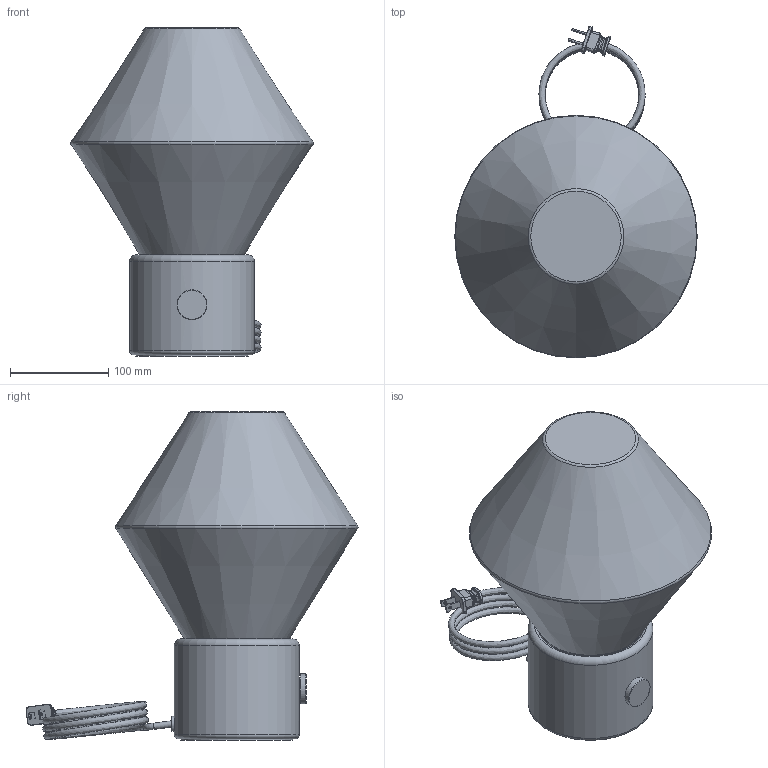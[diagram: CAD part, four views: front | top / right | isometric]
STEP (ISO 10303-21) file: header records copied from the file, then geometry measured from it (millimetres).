
FILE_DESCRIPTION(/* description */ (''),/* implementation_level */ '2;1');
FILE_NAME(/* name */ 'Trove - Ionic Table Lamp.step',/* time_stamp */ '2024-07-26T16:27:03-04:00',/* author */ (''),/* organization */ (''),/* preprocessor_version */ 'ST-DEVELOPER v20',/* originating_system */ 'Autodesk Translation Framework v13.14.0.145',/* authorisation */ '');
FILE_SCHEMA (('AUTOMOTIVE_DESIGN { 1 0 10303 214 3 1 1 }'));
Length unit declared in the file: inch
Products named in the file (20): Marble Base - Ionic Table Lamp - 120V; Coiled - SVT (Blk Fabric); Brass Dial - Dimmer Knob; µ÷¹âÆ÷; 90701000093 ¹â°åE27µÆ×ù_¦Õ375
9mm_ºÚÉ«_CEÈÏÖ¤; 90701000096 M10ÑÀ¹Ü_M10L25mmÄÚ¿×¦
Õ7_²ÄÖÊ£ºÌú_¶Æ°×Ð
¿_RoHS; 90701000098 Ñ¹Ïß°å_PP_314612_º
ÚÉ«; 90701000097 M10Áù½Ç±¡ÂÝÄ¸_M10
_²ÄÖÊ£ºÌú_¶Æ°×Ð¿
_RoHS; M10ÄÚ¾â³ÝËø½ôµæÈ¦
_²ÄÖÊ£ºÌú_¶Æ°×Ð¿
_RoHS; Marble Base; Plastic Insert; Silicone Gasket; T9 - Bulb; T9 - LED Bulb; T9; E26 Base; Rubber Grommet; 2-Pole Plug End; Neoprene Pad; Trove - TL
Assembly tree (19 placements, depth 4):
  Marble Base - Ionic Table Lamp - 120V
    Coiled - SVT (Blk Fabric)
    Brass Dial - Dimmer Knob
    µ÷¹âÆ÷
    90701000093 ¹â°åE27µÆ×ù_¦Õ375
9mm_ºÚÉ«_CEÈÏÖ¤
    90701000096 M10ÑÀ¹Ü_M10L25mmÄÚ¿×¦
Õ7_²ÄÖÊ£ºÌú_¶Æ°×Ð
¿_RoHS
    90701000098 Ñ¹Ïß°å_PP_314612_º
ÚÉ«
    90701000097 M10Áù½Ç±¡ÂÝÄ¸_M10
_²ÄÖÊ£ºÌú_¶Æ°×Ð¿
_RoHS
    M10ÄÚ¾â³ÝËø½ôµæÈ¦
_²ÄÖÊ£ºÌú_¶Æ°×Ð¿
_RoHS
    Marble Base
    Plastic Insert
    Silicone Gasket
    T9 - Bulb
      T9 - LED Bulb
        T9
        E26 Base
    Rubber Grommet
    2-Pole Plug End
    Neoprene Pad
    Trove - TL
Bounding box: 246.61 x 337.65 x 334.51 mm (x, y, z)
Volume: 1471269.7 mm3; surface area: 619800.8 mm2
Topology: 17 solids, 18 shells, 2029 faces, 5379 edges, 3533 vertices
Faces by surface type: plane 1000, bspline 814, cylinder 131, torus 40, cone 40, sphere 4
Full cylindrical faces by diameter (mm): 3.175 x2, 4.092 x1, 5.08 x1, 6.35 x2, 6.7 x1, 7 x1, 7.62 x2, 8.128 x1, 8.3 x1, 8.376 x14, 10 x16, 10.16 x1, 10.5 x1, 10.922 x1, 11 x1, 11.684 x1, 14 x1, 15.24 x2, 16 x1, 16.8 x1, 21 x1, 25.94 x1, 27 x1, 27.94 x1, 30.48 x1, 35.5 x1, 37.5 x1, 39.37 x1, 41.402 x1, 80.518 x1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
Entity records: 78645 total; most frequent: CARTESIAN_POINT 33027, ORIENTED_EDGE 10748, DIRECTION 6592, EDGE_CURVE 5375, VERTEX_POINT 3533, LINE 3298, VECTOR 3298, EDGE_LOOP 2210
